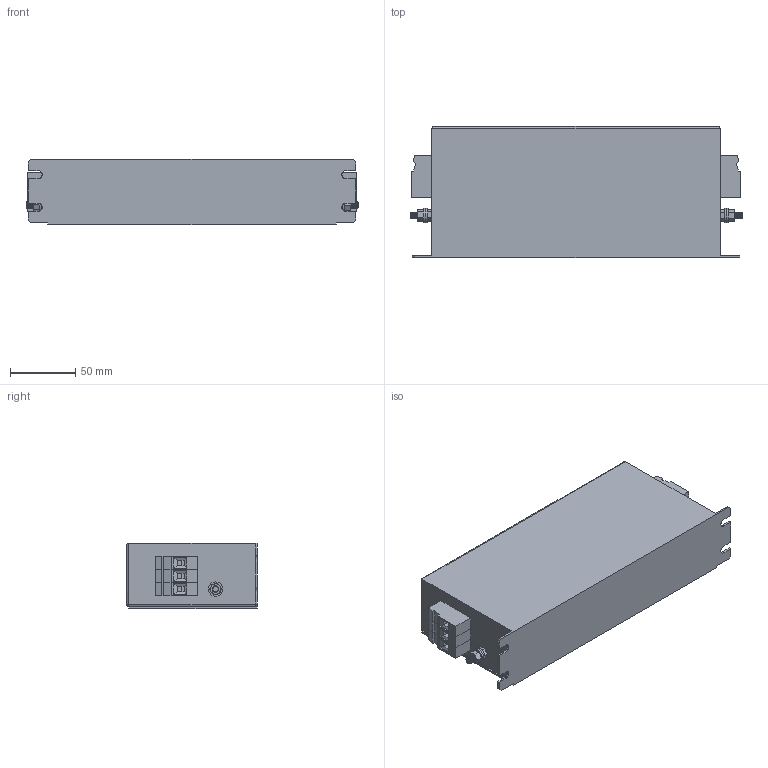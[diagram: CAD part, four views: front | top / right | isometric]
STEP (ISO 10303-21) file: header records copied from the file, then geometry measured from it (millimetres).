
FILE_DESCRIPTION (( 'STEP AP214' ), '1' );
FILE_NAME ('NF-KC-32-LKY.STEP', '2021-08-03T07:34:55', ( '' ), ( '' ), 'SwSTEP 2.0', 'SolidWorks 2021', '' );
FILE_SCHEMA (( 'AUTOMOTIVE_DESIGN' ));
Length unit declared in the file: millimetre
Products named in the file (8): M5x13 Earth post; hex nut style 1_am_B18.2.4.1M - Hex nut, Style 1,  M5 x 0.8 --D-N; flat washer narrow_am_B18.22M - Plain washer, 5 mm, narrow; VDFK-6; 32-LKY case; NF-32-LKY; hex screw_am_B18.6.7M - M5 x 0.8 x 13 Indented HHMS --13S; VDFK6x3
Assembly tree (12 placements, depth 3):
  NF-32-LKY
    32-LKY case
    M5x13 Earth post  x2
      hex screw_am_B18.6.7M - M5 x 0.8 x 13 Indented HHMS --13S
      flat washer narrow_am_B18.22M - Plain washer, 5 mm, narrow
      hex nut style 1_am_B18.2.4.1M - Hex nut, Style 1,  M5 x 0.8 --D-N
    VDFK6x3  x2
      VDFK-6
Bounding box: 253.6 x 100 x 50 mm (x, y, z)
Volume: 1092072.2 mm3; surface area: 116325.2 mm2
Topology: 15 solids, 15 shells, 699 faces, 1617 edges, 974 vertices
Faces by surface type: plane 353, cone 176, cylinder 168, bspline 2
Entity records: 7664 total; most frequent: CARTESIAN_POINT 1377, DIRECTION 1332, ORIENTED_EDGE 1200, EDGE_CURVE 600, AXIS2_PLACEMENT_3D 495, VERTEX_POINT 356, VECTOR 342, LINE 342
